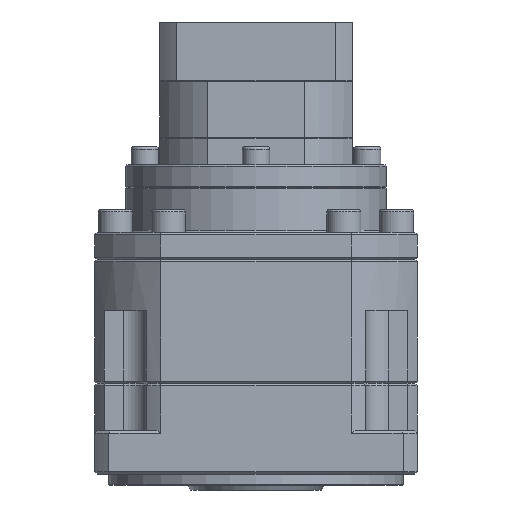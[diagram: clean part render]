
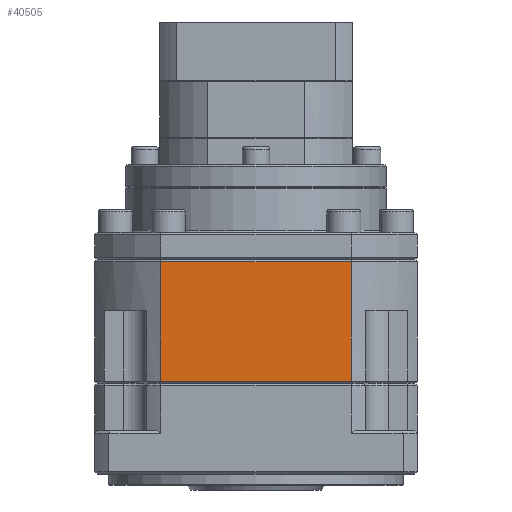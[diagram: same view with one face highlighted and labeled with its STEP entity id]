
A CAD part, front view. The second image highlights one B-rep face of the part: STEP entity #40505.
In plain terms, the highlighted planar face has unit normal (0, -1, 0).
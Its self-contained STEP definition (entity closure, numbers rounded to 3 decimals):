
#12208 = CARTESIAN_POINT ( 'NONE',  ( -74.811, 19.608, -107.201 ) ) ;
#16081 = LINE ( 'NONE', #112175, #85626 ) ;
#16291 = DIRECTION ( 'NONE',  ( -1., 0., 0. ) ) ;
#17452 = VERTEX_POINT ( 'NONE', #33877 ) ;
#17896 = EDGE_LOOP ( 'NONE', ( #83576, #81388, #69124, #67447 ) ) ;
#18189 = VECTOR ( 'NONE', #21714, 1000. ) ;
#21714 = DIRECTION ( 'NONE',  ( 0., 0., -1. ) ) ;
#22171 = CARTESIAN_POINT ( 'NONE',  ( -103.796, 19.608, -107.201 ) ) ;
#22815 = CARTESIAN_POINT ( 'NONE',  ( -187.826, 19.608, -107.201 ) ) ;
#27907 = LINE ( 'NONE', #89809, #49368 ) ;
#30182 = EDGE_CURVE ( 'NONE', #49750, #34176, #105951, .T. ) ;
#33877 = CARTESIAN_POINT ( 'NONE',  ( -187.826, 19.608, -108.201 ) ) ;
#33897 = DIRECTION ( 'NONE',  ( 0., 0., 1. ) ) ;
#34176 = VERTEX_POINT ( 'NONE', #132341 ) ;
#40505 = ADVANCED_FACE ( 'NONE', ( #91031 ), #119034, .F. ) ;
#41684 = LINE ( 'NONE', #22815, #58183 ) ;
#47753 = CARTESIAN_POINT ( 'NONE',  ( -187.826, 19.608, -160.701 ) ) ;
#49368 = VECTOR ( 'NONE', #16291, 1000. ) ;
#49750 = VERTEX_POINT ( 'NONE', #74058 ) ;
#54678 = EDGE_CURVE ( 'NONE', #34176, #61825, #27907, .T. ) ;
#58183 = VECTOR ( 'NONE', #33897, 1000. ) ;
#59871 = EDGE_CURVE ( 'NONE', #61825, #17452, #41684, .T. ) ;
#61825 = VERTEX_POINT ( 'NONE', #47753 ) ;
#67447 = ORIENTED_EDGE ( 'NONE', *, *, #30182, .F. ) ;
#69124 = ORIENTED_EDGE ( 'NONE', *, *, #54678, .F. ) ;
#70473 = DIRECTION ( 'NONE',  ( 1., 0., 0. ) ) ;
#74058 = CARTESIAN_POINT ( 'NONE',  ( -103.796, 19.608, -108.201 ) ) ;
#81388 = ORIENTED_EDGE ( 'NONE', *, *, #59871, .F. ) ;
#83576 = ORIENTED_EDGE ( 'NONE', *, *, #127596, .F. ) ;
#85626 = VECTOR ( 'NONE', #70473, 1000. ) ;
#86176 = DIRECTION ( 'NONE',  ( -1., 0., 0. ) ) ;
#89809 = CARTESIAN_POINT ( 'NONE',  ( -74.811, 19.608, -160.701 ) ) ;
#91031 = FACE_OUTER_BOUND ( 'NONE', #17896, .T. ) ;
#98812 = AXIS2_PLACEMENT_3D ( 'NONE', #12208, #107911, #86176 ) ;
#105951 = LINE ( 'NONE', #22171, #18189 ) ;
#107911 = DIRECTION ( 'NONE',  ( 0., 1., 0. ) ) ;
#112175 = CARTESIAN_POINT ( 'NONE',  ( -145.811, 19.608, -108.201 ) ) ;
#119034 = PLANE ( 'NONE',  #98812 ) ;
#127596 = EDGE_CURVE ( 'NONE', #17452, #49750, #16081, .T. ) ;
#132341 = CARTESIAN_POINT ( 'NONE',  ( -103.796, 19.608, -160.701 ) ) ;
